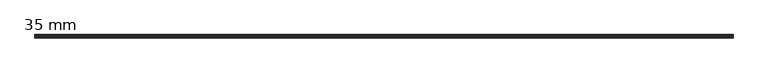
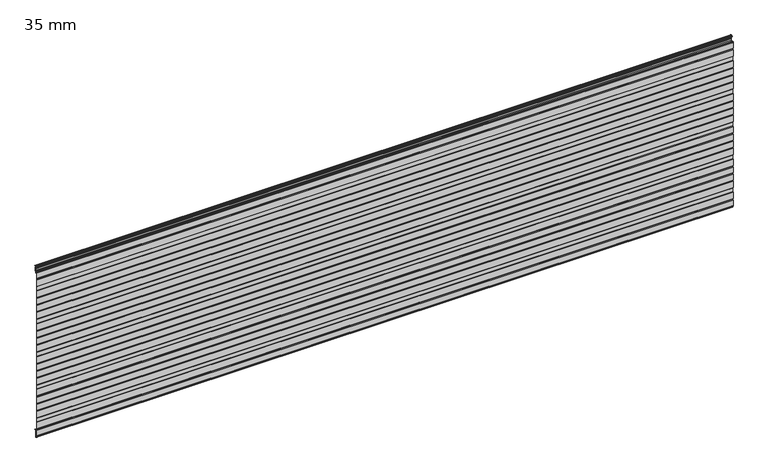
"""IFC4 building model written with IfcOpenShell, lengths in millimetres: plate geometry, HIANSA PANEL - H20.F02.002-PANELES DE FACHADA HORIZONTAL - PANEL PERFILADO - Panel de Muro Cortina : 35 mm."""

from ifc_helpers import new_model, si_unit, point, frame, frame_2d, origin, place, context, project, spatial, polyline, circle_curve, trimmed, segment, composite_curve, outline, extrude, source, transform, mapped, element, save


def plate_35_mm_2cd82b16(model_context):
    return source(origin(), model_context, "Body", "SweptSolid", [
        extrude(outline(polyline([(-18.7836621, 1123.0800953), (-18.012002, 1123.5800953), (-13.6987386, 1123.5800953), (-12.8994266, 1123.0800953), (-18.7836621, 1123.0800953)])), frame((-2200.0, 0.0, 0.0), z_axis=(1.0, 0.0, 0.0), x_axis=(0.0, 1.0, 0.0)), (0.0, 0.0, 1.0), 4400.0),
        extrude(outline(polyline([(-18.8274011, 25.6210465), (-12.9205789, 25.6210465), (-13.7002592, 25.1210465), (-18.0111357, 25.1210465), (-18.8274011, 25.6210465)])), frame((-2200.0, 0.0, 0.0), z_axis=(1.0, 0.0, 0.0), x_axis=(0.0, 1.0, 0.0)), (0.0, 0.0, 1.0), 4400.0),
        extrude(outline(composite_curve([segment(trimmed(circle_curve(frame_2d((-21.3367084, 23.0802198)), 2.54), [point((-23.8767084, 23.0802198))], [point((-21.3367084, 25.6202198))], False, "CARTESIAN"), True, "CONTINUOUS"), segment(polyline([(-21.3367084, 25.6202198), (-18.8260515, 25.6202198), (-18.0095828, 25.1200953), (-21.336632, 25.1202198)]), True, "CONTINUOUS"), segment(trimmed(circle_curve(frame_2d((-21.3367084, 23.0802198)), 2.04), [point((-21.336632, 25.1202198))], [point((-23.3767084, 23.0802198))], True, "CARTESIAN"), True, "CONTINUOUS"), segment(polyline([(-23.3767084, 23.0802198), (-23.3767084, -18.7009512)]), True, "CONTINUOUS"), segment(trimmed(circle_curve(frame_2d((-24.3767084, -18.7009512)), 1.0), [point((-23.3767084, -18.7009512))], [point((-24.3767084, -19.7009512))], False, "CARTESIAN"), True, "CONTINUOUS"), segment(polyline([(-24.3767084, -19.7009512), (-28.1267084, -19.7009512)]), True, "CONTINUOUS"), segment(trimmed(circle_curve(frame_2d((-28.1267084, -18.7009512)), 1.0), [point((-28.1267084, -19.7009512))], [point((-29.1267084, -18.7009512))], False, "CARTESIAN"), True, "CONTINUOUS"), segment(polyline([(-29.1267084, -18.7009512), (-29.1267084, -10.5354413)]), True, "CONTINUOUS"), segment(trimmed(circle_curve(frame_2d((-30.1267084, -10.5354413)), 1.0), [point((-29.1267084, -10.5354413))], [point((-30.1267084, -9.5354413))], True, "CARTESIAN"), True, "CONTINUOUS"), segment(polyline([(-30.1267084, -9.5354413), (-32.5159365, -9.5354413)]), True, "CONTINUOUS"), segment(trimmed(circle_curve(frame_2d((-32.5159365, -7.6351946)), 1.9002467), [point((-32.5159365, -9.5354413))], [point((-34.3594466, -8.0960721))], False, "CARTESIAN"), True, "CONTINUOUS"), segment(polyline([(-34.3594466, -8.0960721), (-34.9990488, -5.5376633), (-34.9990488, 33.6845589), (-33.9990488, 37.6845589), (-34.9990488, 41.6845589), (-34.9990488, 84.9067811), (-33.9990488, 87.9067811), (-33.9990488, 113.0187811), (-34.9990488, 116.0187811), (-34.9990488, 159.2410033), (-33.9990488, 163.2410033), (-34.9990488, 167.2410033), (-34.9990488, 206.4632255), (-33.9990488, 210.4632255), (-34.9990488, 214.4632255), (-34.9990488, 253.6854477), (-33.9990488, 257.6854477), (-34.9990488, 261.6854477), (-34.9990488, 304.9076699), (-33.9990488, 307.9076699), (-33.9990488, 333.0196699), (-34.9990488, 336.0196699), (-34.9990488, 379.2418921), (-33.9990488, 383.2418921), (-34.9990488, 387.2418921), (-34.9990488, 426.4641143), (-33.9990488, 430.4641143), (-34.9990488, 434.4641143), (-34.9990488, 473.6863365), (-33.9990488, 477.6863365), (-34.9990488, 481.6863365), (-34.9990488, 524.9085587), (-33.9990488, 527.9085587), (-33.9990488, 553.0205587), (-34.9990488, 556.0205587), (-34.9990488, 599.2427809), (-33.9990488, 603.2427809), (-34.9990488, 607.2427809), (-34.9990488, 646.4650031), (-33.9990488, 650.4650031), (-34.9990488, 654.4650031), (-34.9990488, 693.6872253), (-33.9990488, 697.6872253), (-34.9990488, 701.6872253), (-34.9990488, 744.9094475), (-33.9990488, 747.9094475), (-33.9990488, 773.0214475), (-34.9990488, 776.0214475), (-34.9990488, 819.2436697), (-33.9990488, 823.2436697), (-34.9990488, 827.2436697), (-34.9990488, 866.4658919), (-33.9990488, 870.4658919), (-34.9990488, 874.4658919), (-34.9990488, 913.6881141), (-33.9990488, 917.6881141), (-34.9990488, 921.6881141), (-34.9990488, 964.9103363), (-33.9990488, 967.9103363), (-33.9990488, 993.0223363), (-34.9990488, 996.0223363), (-34.9990488, 1039.2445585), (-33.9990488, 1043.2445585), (-34.9990488, 1047.2445585), (-34.9990488, 1086.4667807), (-34.3593999, 1089.0253764)]), True, "CONTINUOUS"), segment(trimmed(circle_curve(frame_2d((-32.5161291, 1088.5645587)), 1.9), [point((-34.3593999, 1089.0253764))], [point((-32.5161291, 1090.4645587))], False, "CARTESIAN"), True, "CONTINUOUS"), segment(polyline([(-32.5161291, 1090.4645587), (-30.3767084, 1090.4645587)]), True, "CONTINUOUS"), segment(trimmed(circle_curve(frame_2d((-30.3767084, 1089.4645587)), 1.0), [point((-30.3767084, 1090.4645587))], [point((-29.3767084, 1089.4645587))], False, "CARTESIAN"), True, "CONTINUOUS"), segment(polyline([(-29.3767084, 1089.4645587), (-29.3767084, 1080.7990488)]), True, "CONTINUOUS"), segment(trimmed(circle_curve(frame_2d((-28.3767084, 1080.7990488)), 1.0), [point((-29.3767084, 1080.7990488))], [point((-28.3767084, 1079.7990488))], True, "CARTESIAN"), True, "CONTINUOUS"), segment(polyline([(-28.3767084, 1079.7990488), (-24.1267084, 1079.7990488)]), True, "CONTINUOUS"), segment(trimmed(circle_curve(frame_2d((-24.1267084, 1080.7990488)), 1.0), [point((-24.1267084, 1079.7990488))], [point((-23.1267084, 1080.7990488))], True, "CARTESIAN"), True, "CONTINUOUS"), segment(polyline([(-23.1267084, 1080.7990488), (-23.1267084, 1082.4003519)]), True, "CONTINUOUS"), segment(trimmed(circle_curve(frame_2d((-21.1267084, 1082.4003519)), 2.0), [point((-23.1267084, 1082.4003519))], [point((-22.2738613, 1084.038656))], False, "CARTESIAN"), True, "CONTINUOUS"), segment(polyline([(-22.2738613, 1084.038656), (-16.2163437, 1088.2801754)]), True, "CONTINUOUS"), segment(trimmed(circle_curve(frame_2d((-17.0767084, 1089.5089035)), 1.5), [point((-16.2163437, 1088.2801754))], [point((-15.5767084, 1089.5089035))], True, "CARTESIAN"), True, "CONTINUOUS"), segment(polyline([(-15.5767084, 1089.5089035), (-15.5767084, 1098.7402031), (-14.6767084, 1100.2990488), (-15.5767084, 1101.8578945), (-15.5767084, 1111.0891941)]), True, "CONTINUOUS"), segment(trimmed(circle_curve(frame_2d((-17.0767084, 1111.0891941)), 1.5), [point((-15.5767084, 1111.0891941))], [point((-16.2163437, 1112.3179221))], True, "CARTESIAN"), True, "CONTINUOUS"), segment(polyline([(-16.2163437, 1112.3179221), (-22.2738613, 1116.5594416)]), True, "CONTINUOUS"), segment(trimmed(circle_curve(frame_2d((-21.1267084, 1118.1977457)), 2.0), [point((-22.2738613, 1116.5594416))], [point((-23.1267084, 1118.1977457))], False, "CARTESIAN"), True, "CONTINUOUS"), segment(polyline([(-23.1267084, 1118.1977457), (-23.1267084, 1121.5800953)]), True, "CONTINUOUS"), segment(trimmed(circle_curve(frame_2d((-21.1267084, 1121.5800953)), 2.0), [point((-23.1267084, 1121.5800953))], [point((-21.1267084, 1123.5800953))], False, "CARTESIAN"), True, "CONTINUOUS"), segment(polyline([(-21.1267084, 1123.5800953), (-18.0095828, 1123.5800953), (-18.7812429, 1123.0800953), (-21.1267084, 1123.0800953)]), True, "CONTINUOUS"), segment(trimmed(circle_curve(frame_2d((-21.1267084, 1121.5800953)), 1.5), [point((-21.1267084, 1123.0800953))], [point((-22.6267084, 1121.5800953))], True, "CARTESIAN"), True, "CONTINUOUS"), segment(polyline([(-22.6267084, 1121.5800953), (-22.6267084, 1118.1977457)]), True, "CONTINUOUS"), segment(trimmed(circle_curve(frame_2d((-21.1267084, 1118.1977457)), 1.5), [point((-22.6267084, 1118.1977457))], [point((-21.987073, 1116.9690176))], True, "CARTESIAN"), True, "CONTINUOUS"), segment(polyline([(-21.987073, 1116.9690176), (-15.9295555, 1112.7274982)]), True, "CONTINUOUS"), segment(trimmed(circle_curve(frame_2d((-17.0767084, 1111.0891941)), 2.0), [point((-15.9295555, 1112.7274982))], [point((-15.0767084, 1111.0891941))], False, "CARTESIAN"), True, "CONTINUOUS"), segment(polyline([(-15.0767084, 1111.0891941), (-15.0767084, 1101.9918691), (-14.3880333, 1100.7990488)]), True, "CONTINUOUS"), segment(trimmed(circle_curve(frame_2d((-15.2540587, 1100.2990488)), 1.0), [point((-14.3880333, 1100.7990488))], [point((-14.3880333, 1099.7990488))], False, "CARTESIAN"), True, "CONTINUOUS"), segment(polyline([(-14.3880333, 1099.7990488), (-15.0767084, 1098.6062285), (-15.0767084, 1089.5089035)]), True, "CONTINUOUS"), segment(trimmed(circle_curve(frame_2d((-17.0767084, 1089.5089035)), 2.0), [point((-15.0767084, 1089.5089035))], [point((-15.9295555, 1087.8705994))], False, "CARTESIAN"), True, "CONTINUOUS"), segment(polyline([(-15.9295555, 1087.8705994), (-21.987073, 1083.62908)]), True, "CONTINUOUS"), segment(trimmed(circle_curve(frame_2d((-21.1267084, 1082.4003519)), 1.5), [point((-21.987073, 1083.62908))], [point((-22.6267084, 1082.4003519))], True, "CARTESIAN"), True, "CONTINUOUS"), segment(polyline([(-22.6267084, 1082.4003519), (-22.6267084, 1080.7990488)]), True, "CONTINUOUS"), segment(trimmed(circle_curve(frame_2d((-24.1267084, 1080.7990488)), 1.5), [point((-22.6267084, 1080.7990488))], [point((-24.1267084, 1079.2990488))], False, "CARTESIAN"), True, "CONTINUOUS"), segment(polyline([(-24.1267084, 1079.2990488), (-28.3767084, 1079.2990488)]), True, "CONTINUOUS"), segment(trimmed(circle_curve(frame_2d((-28.3767084, 1080.7990488)), 1.5), [point((-28.3767084, 1079.2990488))], [point((-29.8767084, 1080.7990488))], False, "CARTESIAN"), True, "CONTINUOUS"), segment(polyline([(-29.8767084, 1080.7990488), (-29.8767084, 1089.9645587), (-32.5161291, 1089.9645587)]), True, "CONTINUOUS"), segment(trimmed(circle_curve(frame_2d((-32.5161291, 1088.5645587)), 1.4), [point((-32.5161291, 1089.9645587))], [point((-33.8743286, 1088.9041086))], True, "CARTESIAN"), True, "CONTINUOUS"), segment(polyline([(-33.8743286, 1088.9041086), (-34.4990488, 1086.4052279), (-34.4990488, 1047.3061113), (-33.4836606, 1043.2445585), (-34.4990488, 1039.1830057), (-34.4990488, 996.1034751), (-33.4990488, 993.1034751), (-33.4990488, 967.8291975), (-34.4990488, 964.8291975), (-34.4990488, 921.7496669), (-33.4836606, 917.6881141), (-34.4990488, 913.6265613), (-34.4990488, 874.5274447), (-33.4836606, 870.4658919), (-34.4990488, 866.4043391), (-34.4990488, 827.3052225), (-33.4836606, 823.2436697), (-34.4990488, 819.1821169), (-34.4990488, 776.1025863), (-33.4990488, 773.1025863), (-33.4990488, 747.8283087), (-34.4990488, 744.8283087), (-34.4990488, 701.7487781), (-33.4836606, 697.6872253), (-34.4990488, 693.6256725), (-34.4990488, 654.5265559), (-33.4836606, 650.4650031), (-34.4990488, 646.4034503), (-34.4990488, 607.3043337), (-33.4836606, 603.2427809), (-34.4990488, 599.1812281), (-34.4990488, 556.1016975), (-33.4990488, 553.1016975), (-33.4990488, 527.8274199), (-34.4990488, 524.8274199), (-34.4990488, 481.7478893), (-33.4836606, 477.6863365), (-34.4990488, 473.6247837), (-34.4990488, 434.5256671), (-33.4836606, 430.4641143), (-34.4990488, 426.4025615), (-34.4990488, 387.3034449), (-33.4836606, 383.2418921), (-34.4990488, 379.1803393), (-34.4990488, 336.1008087), (-33.4990488, 333.1008087), (-33.4990488, 307.8265311), (-34.4990488, 304.8265311), (-34.4990488, 261.7470005), (-33.4836606, 257.6854477), (-34.4990488, 253.6238949), (-34.4990488, 214.5247783), (-33.4836606, 210.4632255), (-34.4990488, 206.4016727), (-34.4990488, 167.3025561), (-33.4836606, 163.2410033), (-34.4990488, 159.1794505), (-34.4990488, 116.0999199), (-33.4990488, 113.0999199), (-33.4990488, 87.8256423), (-34.4990488, 84.8256423), (-34.4990488, 41.7461117), (-33.4836606, 37.6845589), (-34.4990488, 33.6230061), (-34.4990488, -5.4761105), (-33.8741312, -7.9757808)]), True, "CONTINUOUS"), segment(trimmed(circle_curve(frame_2d((-32.5169431, -7.6364838)), 1.3989577), [point((-33.8741312, -7.9757808))], [point((-32.5169431, -9.0354415))], True, "CARTESIAN"), True, "CONTINUOUS"), segment(polyline([(-32.5169431, -9.0354415), (-30.1267084, -9.0354413)]), True, "CONTINUOUS"), segment(trimmed(circle_curve(frame_2d((-30.1267084, -10.5354413)), 1.5), [point((-30.1267084, -9.0354413))], [point((-28.6267084, -10.5354413))], False, "CARTESIAN"), True, "CONTINUOUS"), segment(polyline([(-28.6267084, -10.5354413), (-28.6267084, -19.2009512), (-23.8767084, -19.2009512), (-23.8767084, 23.0802198)]), True, "CONTINUOUS")], self_intersect=False)), frame((-2200.0, 0.0, 0.0), z_axis=(1.0, 0.0, 0.0), x_axis=(0.0, 1.0, 0.0)), (0.0, 0.0, 1.0), 4400.0),
    ])


if __name__ == "__main__":
    model = new_model("IFC4")
    model_context = context("Model", 3, world=origin())
    ifc_project = project(units=[si_unit("LENGTHUNIT", "METRE", prefix="MILLI")], contexts=[model_context])
    site = spatial("IfcSite", under=ifc_project)
    building = spatial("IfcBuilding", under=site)
    placement = place(None, origin())
    plate_35_mm_shape = plate_35_mm_2cd82b16(model_context)
    element("IfcPlate", 1, ObjectType="HIANSA PANEL - H20.F02.002-PANELES DE FACHADA HORIZONTAL - PANEL PERFILADO - Panel de Muro Cortina : 35 mm", at=placement, inside=building, context=model_context, shape_type="MappedRepresentation", body=[
        mapped(plate_35_mm_shape, transform((0.0, 0.0, 0.0), x_axis=(1.0, 0.0, 0.0), y_axis=(0.0, 1.0, 0.0), z_axis=(0.0, 0.0, 1.0))),
    ])
    save(model, "model.ifc")
